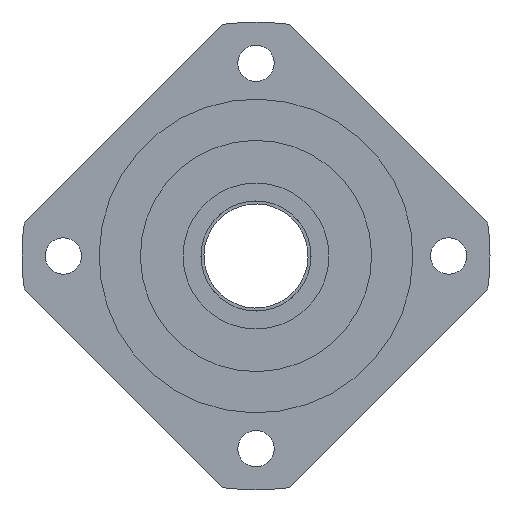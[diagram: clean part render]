
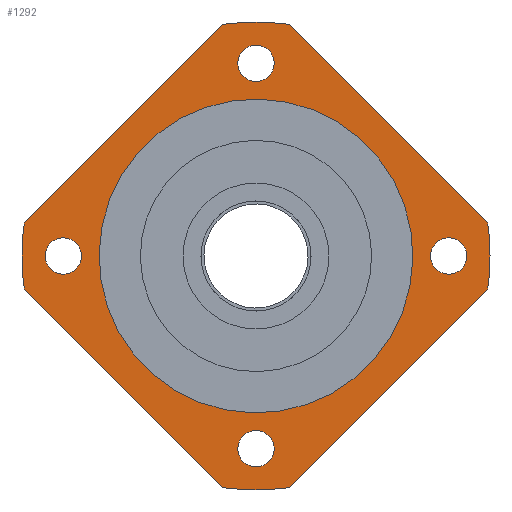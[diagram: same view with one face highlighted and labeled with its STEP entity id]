
A CAD part, left-side view. The second image highlights one B-rep face of the part: STEP entity #1292.
In plain terms, the highlighted planar face has unit normal (-1, 0, 0).
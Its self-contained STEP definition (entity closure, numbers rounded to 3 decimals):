
#79=CARTESIAN_POINT('Vertex',(-22.,-6.01,-42.073)) ;
#82=CARTESIAN_POINT('Axis2P3D Location',(-22.,0.,0.)) ;
#86=CARTESIAN_POINT('Vertex',(-22.,6.01,-42.073)) ;
#112=CARTESIAN_POINT('Vertex',(-22.,-42.073,-6.01)) ;
#115=CARTESIAN_POINT('Line Origine',(-22.,-24.042,-24.042)) ;
#143=CARTESIAN_POINT('Vertex',(-22.,-42.5,0.)) ;
#146=CARTESIAN_POINT('Axis2P3D Location',(-22.,0.,0.)) ;
#169=CARTESIAN_POINT('Vertex',(-22.,-42.073,6.01)) ;
#172=CARTESIAN_POINT('Axis2P3D Location',(-22.,0.,0.)) ;
#195=CARTESIAN_POINT('Vertex',(-22.,-6.01,42.073)) ;
#198=CARTESIAN_POINT('Line Origine',(-22.,-24.042,24.042)) ;
#226=CARTESIAN_POINT('Vertex',(-22.,6.01,42.073)) ;
#229=CARTESIAN_POINT('Axis2P3D Location',(-22.,0.,0.)) ;
#252=CARTESIAN_POINT('Vertex',(-22.,42.073,6.01)) ;
#255=CARTESIAN_POINT('Line Origine',(-22.,24.042,24.042)) ;
#283=CARTESIAN_POINT('Vertex',(-22.,42.5,0.)) ;
#286=CARTESIAN_POINT('Axis2P3D Location',(-22.,0.,0.)) ;
#309=CARTESIAN_POINT('Vertex',(-22.,42.073,-6.01)) ;
#312=CARTESIAN_POINT('Axis2P3D Location',(-22.,0.,0.)) ;
#808=CARTESIAN_POINT('Axis2P3D Location',(-22.,-35.,0.)) ;
#812=CARTESIAN_POINT('Vertex',(-22.,-36.582,-2.896)) ;
#814=CARTESIAN_POINT('Vertex',(-22.,-33.418,2.896)) ;
#834=CARTESIAN_POINT('Axis2P3D Location',(-22.,-35.,0.)) ;
#851=CARTESIAN_POINT('Axis2P3D Location',(-22.,0.,-35.)) ;
#855=CARTESIAN_POINT('Vertex',(-22.,2.896,-36.582)) ;
#857=CARTESIAN_POINT('Vertex',(-22.,-2.896,-33.418)) ;
#877=CARTESIAN_POINT('Axis2P3D Location',(-22.,0.,-35.)) ;
#894=CARTESIAN_POINT('Axis2P3D Location',(-22.,35.,0.)) ;
#898=CARTESIAN_POINT('Vertex',(-22.,36.582,2.896)) ;
#900=CARTESIAN_POINT('Vertex',(-22.,33.418,-2.896)) ;
#920=CARTESIAN_POINT('Axis2P3D Location',(-22.,35.,0.)) ;
#941=CARTESIAN_POINT('Vertex',(-22.,-13.664,-25.011)) ;
#944=CARTESIAN_POINT('Axis2P3D Location',(-22.,0.,0.)) ;
#948=CARTESIAN_POINT('Vertex',(-22.,13.664,25.011)) ;
#963=CARTESIAN_POINT('Axis2P3D Location',(-22.,0.,0.)) ;
#980=CARTESIAN_POINT('Axis2P3D Location',(-22.,0.,35.)) ;
#984=CARTESIAN_POINT('Vertex',(-22.,-2.896,36.582)) ;
#986=CARTESIAN_POINT('Vertex',(-22.,2.896,33.418)) ;
#1006=CARTESIAN_POINT('Axis2P3D Location',(-22.,0.,35.)) ;
#1238=CARTESIAN_POINT('Line Origine',(-22.,24.042,-24.042)) ;
#1255=CARTESIAN_POINT('Axis2P3D Location',(-22.,0.,82.621)) ;
#83=DIRECTION('Axis2P3D Direction',(1.,0.,0.)) ;
#116=DIRECTION('Vector Direction',(0.,-0.707,0.707)) ;
#147=DIRECTION('Axis2P3D Direction',(1.,0.,0.)) ;
#173=DIRECTION('Axis2P3D Direction',(1.,0.,0.)) ;
#199=DIRECTION('Vector Direction',(0.,0.707,0.707)) ;
#230=DIRECTION('Axis2P3D Direction',(1.,0.,0.)) ;
#256=DIRECTION('Vector Direction',(0.,0.707,-0.707)) ;
#287=DIRECTION('Axis2P3D Direction',(1.,0.,0.)) ;
#313=DIRECTION('Axis2P3D Direction',(1.,0.,0.)) ;
#809=DIRECTION('Axis2P3D Direction',(-1.,0.,0.)) ;
#835=DIRECTION('Axis2P3D Direction',(-1.,0.,0.)) ;
#852=DIRECTION('Axis2P3D Direction',(-1.,-0.,0.)) ;
#878=DIRECTION('Axis2P3D Direction',(-1.,-0.,0.)) ;
#895=DIRECTION('Axis2P3D Direction',(-1.,0.,-0.)) ;
#921=DIRECTION('Axis2P3D Direction',(-1.,0.,-0.)) ;
#945=DIRECTION('Axis2P3D Direction',(-1.,0.,0.)) ;
#964=DIRECTION('Axis2P3D Direction',(-1.,0.,0.)) ;
#981=DIRECTION('Axis2P3D Direction',(-1.,0.,-0.)) ;
#1007=DIRECTION('Axis2P3D Direction',(-1.,0.,-0.)) ;
#1239=DIRECTION('Vector Direction',(0.,-0.707,-0.707)) ;
#1256=DIRECTION('Axis2P3D Direction',(-1.,0.,0.)) ;
#1257=DIRECTION('Axis2P3D XDirection',(0.,1.,0.)) ;
#84=AXIS2_PLACEMENT_3D('Circle Axis2P3D',#82,#83,$) ;
#148=AXIS2_PLACEMENT_3D('Circle Axis2P3D',#146,#147,$) ;
#174=AXIS2_PLACEMENT_3D('Circle Axis2P3D',#172,#173,$) ;
#231=AXIS2_PLACEMENT_3D('Circle Axis2P3D',#229,#230,$) ;
#288=AXIS2_PLACEMENT_3D('Circle Axis2P3D',#286,#287,$) ;
#314=AXIS2_PLACEMENT_3D('Circle Axis2P3D',#312,#313,$) ;
#810=AXIS2_PLACEMENT_3D('Circle Axis2P3D',#808,#809,$) ;
#836=AXIS2_PLACEMENT_3D('Circle Axis2P3D',#834,#835,$) ;
#853=AXIS2_PLACEMENT_3D('Circle Axis2P3D',#851,#852,$) ;
#879=AXIS2_PLACEMENT_3D('Circle Axis2P3D',#877,#878,$) ;
#896=AXIS2_PLACEMENT_3D('Circle Axis2P3D',#894,#895,$) ;
#922=AXIS2_PLACEMENT_3D('Circle Axis2P3D',#920,#921,$) ;
#946=AXIS2_PLACEMENT_3D('Circle Axis2P3D',#944,#945,$) ;
#965=AXIS2_PLACEMENT_3D('Circle Axis2P3D',#963,#964,$) ;
#982=AXIS2_PLACEMENT_3D('Circle Axis2P3D',#980,#981,$) ;
#1008=AXIS2_PLACEMENT_3D('Circle Axis2P3D',#1006,#1007,$) ;
#1258=AXIS2_PLACEMENT_3D('Plane Axis2P3D',#1255,#1256,#1257) ;
#1261=ORIENTED_EDGE('',*,*,#88,.T.) ;
#1262=ORIENTED_EDGE('',*,*,#119,.T.) ;
#1263=ORIENTED_EDGE('',*,*,#150,.T.) ;
#1264=ORIENTED_EDGE('',*,*,#176,.T.) ;
#1265=ORIENTED_EDGE('',*,*,#202,.T.) ;
#1266=ORIENTED_EDGE('',*,*,#233,.T.) ;
#1267=ORIENTED_EDGE('',*,*,#259,.T.) ;
#1268=ORIENTED_EDGE('',*,*,#290,.T.) ;
#1269=ORIENTED_EDGE('',*,*,#316,.T.) ;
#1270=ORIENTED_EDGE('',*,*,#1242,.T.) ;
#1273=ORIENTED_EDGE('',*,*,#1010,.F.) ;
#1274=ORIENTED_EDGE('',*,*,#988,.F.) ;
#1277=ORIENTED_EDGE('',*,*,#967,.F.) ;
#1278=ORIENTED_EDGE('',*,*,#950,.F.) ;
#1281=ORIENTED_EDGE('',*,*,#924,.F.) ;
#1282=ORIENTED_EDGE('',*,*,#902,.F.) ;
#1285=ORIENTED_EDGE('',*,*,#881,.F.) ;
#1286=ORIENTED_EDGE('',*,*,#859,.F.) ;
#1289=ORIENTED_EDGE('',*,*,#838,.F.) ;
#1290=ORIENTED_EDGE('',*,*,#816,.F.) ;
#1275=FACE_BOUND('',#1272,.T.) ;
#1279=FACE_BOUND('',#1276,.T.) ;
#1283=FACE_BOUND('',#1280,.T.) ;
#1287=FACE_BOUND('',#1284,.T.) ;
#1291=FACE_BOUND('',#1288,.T.) ;
#117=VECTOR('Line Direction',#116,1.) ;
#200=VECTOR('Line Direction',#199,1.) ;
#257=VECTOR('Line Direction',#256,1.) ;
#1240=VECTOR('Line Direction',#1239,1.) ;
#1292=ADVANCED_FACE('FK20(H)',(#1271,#1275,#1279,#1283,#1287,#1291),#1259,.T.) ;
#85=CIRCLE('generated circle',#84,42.5) ;
#149=CIRCLE('generated circle',#148,42.5) ;
#175=CIRCLE('generated circle',#174,42.5) ;
#232=CIRCLE('generated circle',#231,42.5) ;
#289=CIRCLE('generated circle',#288,42.5) ;
#315=CIRCLE('generated circle',#314,42.5) ;
#811=CIRCLE('generated circle',#810,3.3) ;
#837=CIRCLE('generated circle',#836,3.3) ;
#854=CIRCLE('generated circle',#853,3.3) ;
#880=CIRCLE('generated circle',#879,3.3) ;
#897=CIRCLE('generated circle',#896,3.3) ;
#923=CIRCLE('generated circle',#922,3.3) ;
#947=CIRCLE('generated circle',#946,28.5) ;
#966=CIRCLE('generated circle',#965,28.5) ;
#983=CIRCLE('generated circle',#982,3.3) ;
#1009=CIRCLE('generated circle',#1008,3.3) ;
#88=EDGE_CURVE('',#87,#80,#85,.F.) ;
#119=EDGE_CURVE('',#80,#113,#118,.T.) ;
#150=EDGE_CURVE('',#113,#144,#149,.F.) ;
#176=EDGE_CURVE('',#144,#170,#175,.F.) ;
#202=EDGE_CURVE('',#170,#196,#201,.T.) ;
#233=EDGE_CURVE('',#196,#227,#232,.F.) ;
#259=EDGE_CURVE('',#227,#253,#258,.T.) ;
#290=EDGE_CURVE('',#253,#284,#289,.F.) ;
#316=EDGE_CURVE('',#284,#310,#315,.F.) ;
#816=EDGE_CURVE('',#813,#815,#811,.T.) ;
#838=EDGE_CURVE('',#815,#813,#837,.T.) ;
#859=EDGE_CURVE('',#856,#858,#854,.T.) ;
#881=EDGE_CURVE('',#858,#856,#880,.T.) ;
#902=EDGE_CURVE('',#899,#901,#897,.T.) ;
#924=EDGE_CURVE('',#901,#899,#923,.T.) ;
#950=EDGE_CURVE('',#942,#949,#947,.T.) ;
#967=EDGE_CURVE('',#949,#942,#966,.T.) ;
#988=EDGE_CURVE('',#985,#987,#983,.T.) ;
#1010=EDGE_CURVE('',#987,#985,#1009,.T.) ;
#1242=EDGE_CURVE('',#310,#87,#1241,.T.) ;
#1260=EDGE_LOOP('',(#1261,#1262,#1263,#1264,#1265,#1266,#1267,#1268,#1269,#1270)) ;
#1272=EDGE_LOOP('',(#1273,#1274)) ;
#1276=EDGE_LOOP('',(#1277,#1278)) ;
#1280=EDGE_LOOP('',(#1281,#1282)) ;
#1284=EDGE_LOOP('',(#1285,#1286)) ;
#1288=EDGE_LOOP('',(#1289,#1290)) ;
#1271=FACE_OUTER_BOUND('',#1260,.T.) ;
#118=LINE('Line',#115,#117) ;
#201=LINE('Line',#198,#200) ;
#258=LINE('Line',#255,#257) ;
#1241=LINE('Line',#1238,#1240) ;
#1259=PLANE('Plane',#1258) ;
#80=VERTEX_POINT('',#79) ;
#87=VERTEX_POINT('',#86) ;
#113=VERTEX_POINT('',#112) ;
#144=VERTEX_POINT('',#143) ;
#170=VERTEX_POINT('',#169) ;
#196=VERTEX_POINT('',#195) ;
#227=VERTEX_POINT('',#226) ;
#253=VERTEX_POINT('',#252) ;
#284=VERTEX_POINT('',#283) ;
#310=VERTEX_POINT('',#309) ;
#813=VERTEX_POINT('',#812) ;
#815=VERTEX_POINT('',#814) ;
#856=VERTEX_POINT('',#855) ;
#858=VERTEX_POINT('',#857) ;
#899=VERTEX_POINT('',#898) ;
#901=VERTEX_POINT('',#900) ;
#942=VERTEX_POINT('',#941) ;
#949=VERTEX_POINT('',#948) ;
#985=VERTEX_POINT('',#984) ;
#987=VERTEX_POINT('',#986) ;
